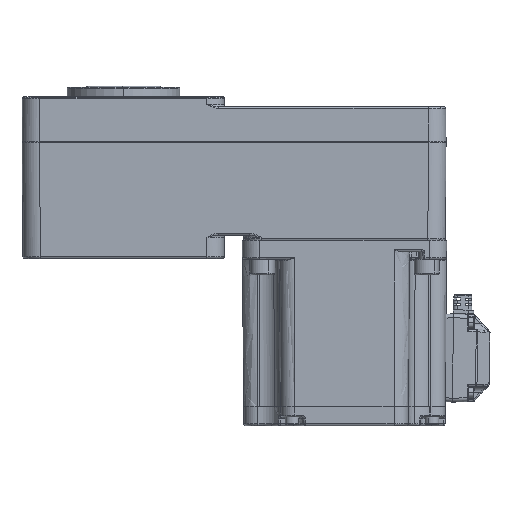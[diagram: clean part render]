
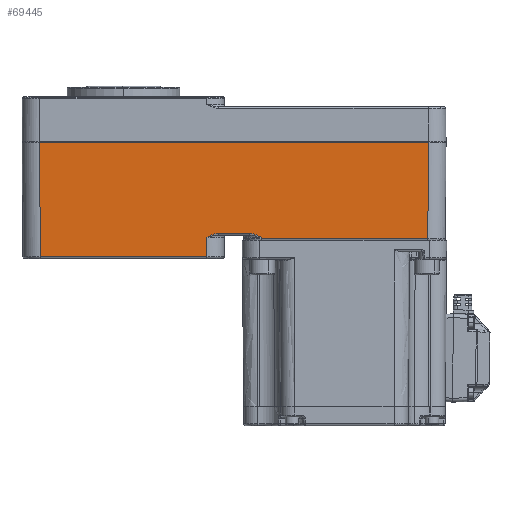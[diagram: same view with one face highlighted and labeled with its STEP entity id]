
A CAD part, left-side view. The second image highlights one B-rep face of the part: STEP entity #69445.
In plain terms, the highlighted planar face has unit normal (-1, 0, -0.009) as drawn and (1, 0, 0.009) by its records, which use the part's own axes.
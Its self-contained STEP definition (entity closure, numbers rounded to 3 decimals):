
#1013 = PLANE ( 'NONE',  #40801 ) ;
#1190 = CARTESIAN_POINT ( 'NONE',  ( 52.034, 9.088, 47.083 ) ) ;
#1537 = CARTESIAN_POINT ( 'NONE',  ( 52.031, -10.622, 47.479 ) ) ;
#1632 = LINE ( 'NONE', #23576, #36469 ) ;
#2308 = CARTESIAN_POINT ( 'NONE',  ( 52.018, 14.008, 48.991 ) ) ;
#3055 = LINE ( 'NONE', #24993, #18406 ) ;
#4027 = DIRECTION ( 'NONE',  ( -0.009, -0.009, 1. ) ) ;
#4745 = LINE ( 'NONE', #26668, #28751 ) ;
#4787 = EDGE_CURVE ( 'NONE', #14609, #52398, #5845, .T. ) ;
#5231 = CARTESIAN_POINT ( 'NONE',  ( 52.01, -14.015, 49.81 ) ) ;
#5429 = VECTOR ( 'NONE', #8153, 1000. ) ;
#5669 = ORIENTED_EDGE ( 'NONE', *, *, #40735, .T. ) ;
#5845 = B_SPLINE_CURVE_WITH_KNOTS ( 'NONE', 3,
 ( #33869, #55826, #6562, #28488, #50455, #1190, #23108, #45038 ),
 .UNSPECIFIED., .F., .F.,
 ( 4, 2, 2, 4 ),
 ( 0., 0.5, 0.75, 1. ),
 .UNSPECIFIED. ) ;
#6562 = CARTESIAN_POINT ( 'NONE',  ( 52.026, 12.109, 48.042 ) ) ;
#6939 = CARTESIAN_POINT ( 'NONE',  ( 52.035, -8.566, 47.009 ) ) ;
#8153 = DIRECTION ( 'NONE',  ( 0.009, -0.009, -1. ) ) ;
#10173 = CARTESIAN_POINT ( 'NONE',  ( 52.445, -100.445, 0. ) ) ;
#11098 = ORIENTED_EDGE ( 'NONE', *, *, #4787, .T. ) ;
#11415 = CARTESIAN_POINT ( 'NONE',  ( 52.445, -57., 0. ) ) ;
#12688 = CARTESIAN_POINT ( 'NONE',  ( 52.018, -14.008, 48.991 ) ) ;
#14018 = EDGE_CURVE ( 'NONE', #71100, #66380, #22530, .T. ) ;
#14609 = VERTEX_POINT ( 'NONE', #2308 ) ;
#16465 = ORIENTED_EDGE ( 'NONE', *, *, #32293, .T. ) ;
#16677 = CARTESIAN_POINT ( 'NONE',  ( 52.445, 100.445, 0. ) ) ;
#18088 = CARTESIAN_POINT ( 'NONE',  ( 52.022, -13.058, 48.52 ) ) ;
#18406 = VECTOR ( 'NONE', #46942, 1000. ) ;
#18701 = EDGE_CURVE ( 'NONE', #57545, #71100, #31346, .T. ) ;
#20532 = VERTEX_POINT ( 'NONE', #16677 ) ;
#21676 = EDGE_CURVE ( 'NONE', #59823, #64776, #28244, .T. ) ;
#22530 = LINE ( 'NONE', #44482, #70760 ) ;
#22942 = CARTESIAN_POINT ( 'NONE',  ( 52., -57., 51. ) ) ;
#23108 = CARTESIAN_POINT ( 'NONE',  ( 52.035, 8.566, 47.009 ) ) ;
#23215 = ORIENTED_EDGE ( 'NONE', *, *, #42591, .T. ) ;
#23467 = CARTESIAN_POINT ( 'NONE',  ( 52.027, -11.614, 47.854 ) ) ;
#23576 = CARTESIAN_POINT ( 'NONE',  ( 51.988, 99.988, 52.37 ) ) ;
#23784 = ORIENTED_EDGE ( 'NONE', *, *, #21676, .T. ) ;
#23927 = ORIENTED_EDGE ( 'NONE', *, *, #18701, .T. ) ;
#24993 = CARTESIAN_POINT ( 'NONE',  ( 52.005, 14.02, 50.38 ) ) ;
#26668 = CARTESIAN_POINT ( 'NONE',  ( 52.035, -57., 47.009 ) ) ;
#28244 = LINE ( 'NONE', #44830, #68242 ) ;
#28488 = CARTESIAN_POINT ( 'NONE',  ( 52.031, 10.622, 47.479 ) ) ;
#28751 = VECTOR ( 'NONE', #48608, 1000. ) ;
#28858 = CARTESIAN_POINT ( 'NONE',  ( 52.034, -9.088, 47.083 ) ) ;
#31346 = LINE ( 'NONE', #53289, #49804 ) ;
#32293 = EDGE_CURVE ( 'NONE', #20532, #59823, #1632, .T. ) ;
#33347 = DIRECTION ( 'NONE',  ( 0., 1., 0. ) ) ;
#33692 = CARTESIAN_POINT ( 'NONE',  ( 52.035, 8.032, 47.009 ) ) ;
#33869 = CARTESIAN_POINT ( 'NONE',  ( 52.018, 14.008, 48.991 ) ) ;
#35513 = LINE ( 'NONE', #57436, #5429 ) ;
#36469 = VECTOR ( 'NONE', #45520, 1000. ) ;
#36558 = VERTEX_POINT ( 'NONE', #40568 ) ;
#38222 = CARTESIAN_POINT ( 'NONE',  ( 52.018, -14.008, 48.991 ) ) ;
#39348 = ORIENTED_EDGE ( 'NONE', *, *, #52529, .T. ) ;
#39727 = CARTESIAN_POINT ( 'NONE',  ( 51.929, 99.93, 59.088 ) ) ;
#40044 = CARTESIAN_POINT ( 'NONE',  ( 52.02, -13.534, 48.754 ) ) ;
#40568 = CARTESIAN_POINT ( 'NONE',  ( 52.035, -8.032, 47.009 ) ) ;
#40735 = EDGE_CURVE ( 'NONE', #56348, #20532, #60686, .T. ) ;
#40801 = AXIS2_PLACEMENT_3D ( 'NONE', #22942, #44872, #66789 ) ;
#41859 = EDGE_CURVE ( 'NONE', #36558, #57545, #43055, .T. ) ;
#42591 = EDGE_CURVE ( 'NONE', #64776, #14609, #3055, .T. ) ;
#42927 = EDGE_CURVE ( 'NONE', #52398, #36558, #4745, .T. ) ;
#43055 = B_SPLINE_CURVE_WITH_KNOTS ( 'NONE', 3,
 ( #61597, #6939, #28858, #50806, #1537, #23467, #45409, #67346, #18088, #40044, #61969, #12688 ),
 .UNSPECIFIED., .F., .F.,
 ( 4, 2, 2, 2, 2, 4 ),
 ( 0., 0.25, 0.5, 0.75, 0.875, 1. ),
 .UNSPECIFIED. ) ;
#44482 = CARTESIAN_POINT ( 'NONE',  ( 52.01, -100., 49.81 ) ) ;
#44830 = CARTESIAN_POINT ( 'NONE',  ( 51.929, 14.1, 59.088 ) ) ;
#44872 = DIRECTION ( 'NONE',  ( 1., 0., 0.009 ) ) ;
#45038 = CARTESIAN_POINT ( 'NONE',  ( 52.035, 8.032, 47.009 ) ) ;
#45409 = CARTESIAN_POINT ( 'NONE',  ( 52.026, -12.099, 48.067 ) ) ;
#45520 = DIRECTION ( 'NONE',  ( -0.009, -0.009, 1. ) ) ;
#46942 = DIRECTION ( 'NONE',  ( 0.009, -0.009, -1. ) ) ;
#48608 = DIRECTION ( 'NONE',  ( 0., -1., 0. ) ) ;
#49804 = VECTOR ( 'NONE', #4027, 1000. ) ;
#50264 = FACE_OUTER_BOUND ( 'NONE', #63225, .T. ) ;
#50455 = CARTESIAN_POINT ( 'NONE',  ( 52.032, 10.115, 47.317 ) ) ;
#50806 = CARTESIAN_POINT ( 'NONE',  ( 52.032, -10.115, 47.317 ) ) ;
#51629 = ORIENTED_EDGE ( 'NONE', *, *, #14018, .T. ) ;
#52398 = VERTEX_POINT ( 'NONE', #33692 ) ;
#52529 = EDGE_CURVE ( 'NONE', #66380, #56348, #35513, .T. ) ;
#53238 = CARTESIAN_POINT ( 'NONE',  ( 52.01, -100.011, 49.81 ) ) ;
#53289 = CARTESIAN_POINT ( 'NONE',  ( 51.997, -14.029, 51.375 ) ) ;
#55826 = CARTESIAN_POINT ( 'NONE',  ( 52.022, 13.059, 48.517 ) ) ;
#56265 = CARTESIAN_POINT ( 'NONE',  ( 51.929, 14.096, 59.088 ) ) ;
#56348 = VERTEX_POINT ( 'NONE', #10173 ) ;
#56772 = ORIENTED_EDGE ( 'NONE', *, *, #41859, .T. ) ;
#57436 = CARTESIAN_POINT ( 'NONE',  ( 51.997, -99.997, 51.375 ) ) ;
#57545 = VERTEX_POINT ( 'NONE', #38222 ) ;
#58144 = ORIENTED_EDGE ( 'NONE', *, *, #42927, .T. ) ;
#59823 = VERTEX_POINT ( 'NONE', #39727 ) ;
#60686 = LINE ( 'NONE', #11415, #69912 ) ;
#61597 = CARTESIAN_POINT ( 'NONE',  ( 52.035, -8.032, 47.009 ) ) ;
#61969 = CARTESIAN_POINT ( 'NONE',  ( 52.019, -13.773, 48.874 ) ) ;
#63225 = EDGE_LOOP ( 'NONE', ( #39348, #5669, #16465, #23784, #23215, #11098, #58144, #56772, #23927, #51629 ) ) ;
#64776 = VERTEX_POINT ( 'NONE', #56265 ) ;
#66380 = VERTEX_POINT ( 'NONE', #53238 ) ;
#66415 = DIRECTION ( 'NONE',  ( 0., -1., 0. ) ) ;
#66749 = DIRECTION ( 'NONE',  ( 0., -1., 0. ) ) ;
#66789 = DIRECTION ( 'NONE',  ( 0., -1., 0. ) ) ;
#67346 = CARTESIAN_POINT ( 'NONE',  ( 52.023, -12.819, 48.405 ) ) ;
#68242 = VECTOR ( 'NONE', #66749, 1000. ) ;
#69445 = ADVANCED_FACE ( 'NONE', ( #50264 ), #1013, .T. ) ;
#69912 = VECTOR ( 'NONE', #33347, 1000. ) ;
#70760 = VECTOR ( 'NONE', #66415, 1000. ) ;
#71100 = VERTEX_POINT ( 'NONE', #5231 ) ;
